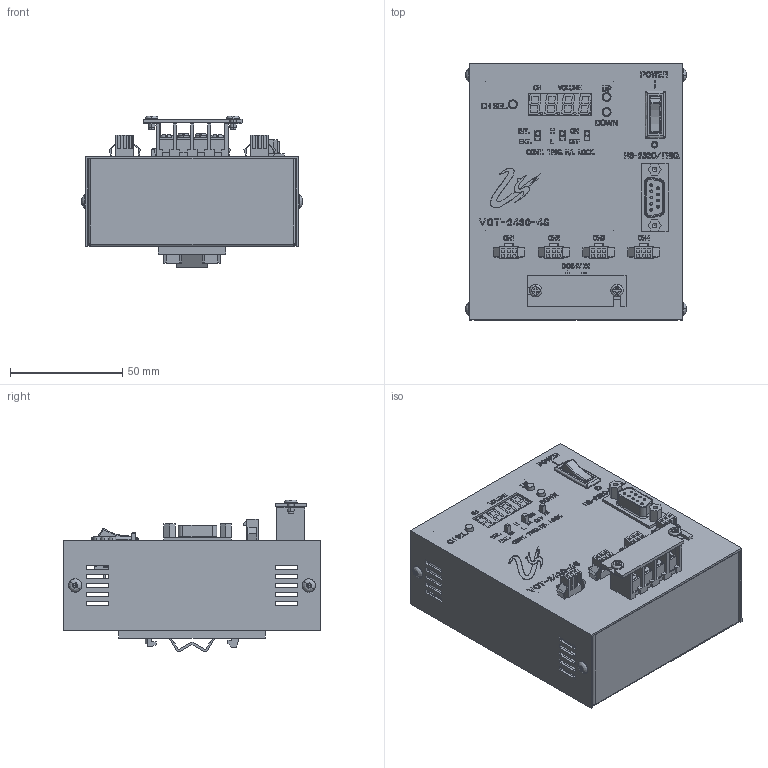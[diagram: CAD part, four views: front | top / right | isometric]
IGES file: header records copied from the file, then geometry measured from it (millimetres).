
Start section: 3D InterOp IGES (v. 2019 1.0.2), Spatial Corp. Copyright (c) 1999-2017.
Global section: file name: VCT-2430-4S_DRAWING_3D.iges; native system: Spatial Corp.; preprocessor: 3D InterOp ACIS/IGES; author: Noname; organization: Noname; date: 20231128.094937; units: millimetre
Bounding box: 98 x 114 x 67.57 mm (x, y, z)
Surface area: 111970.8 mm2 (no closed solid volume)
Topology: 0 solids, 0 shells, 4246 faces, 22487 edges, 22449 vertices
Faces by surface type: extrusion 3053, revolution 726, bspline 467
